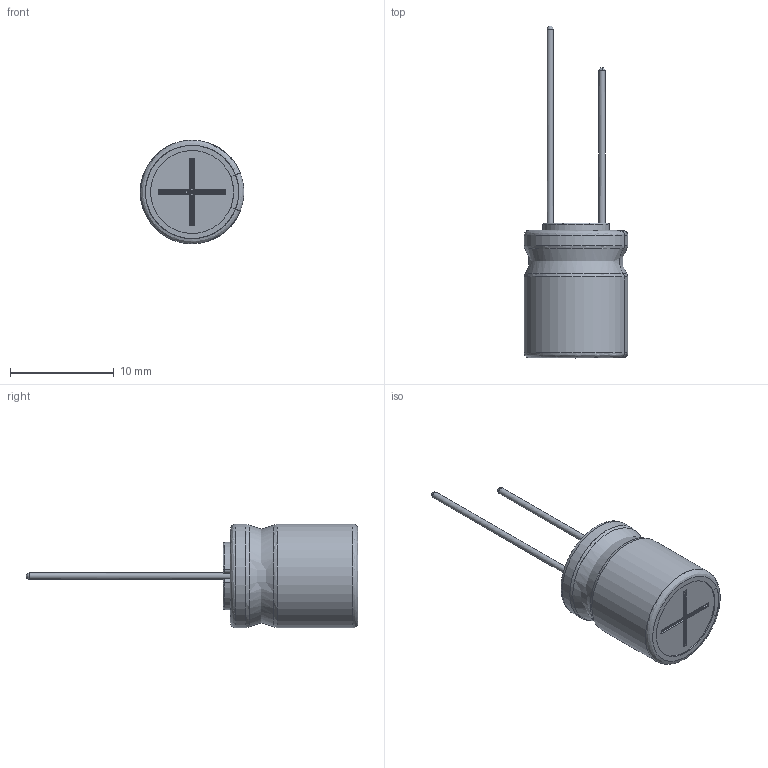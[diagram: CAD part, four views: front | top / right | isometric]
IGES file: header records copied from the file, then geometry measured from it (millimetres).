
Start section: JAMA-IS VERSION  1.0
Bounding box: 9.99 x 32 x 10 mm (x, y, z)
Surface area: 1455.3 mm2 (no closed solid volume)
Topology: 0 solids, 0 shells, 115 faces, 1315 edges, 1296 vertices
Faces by surface type: bspline 115
